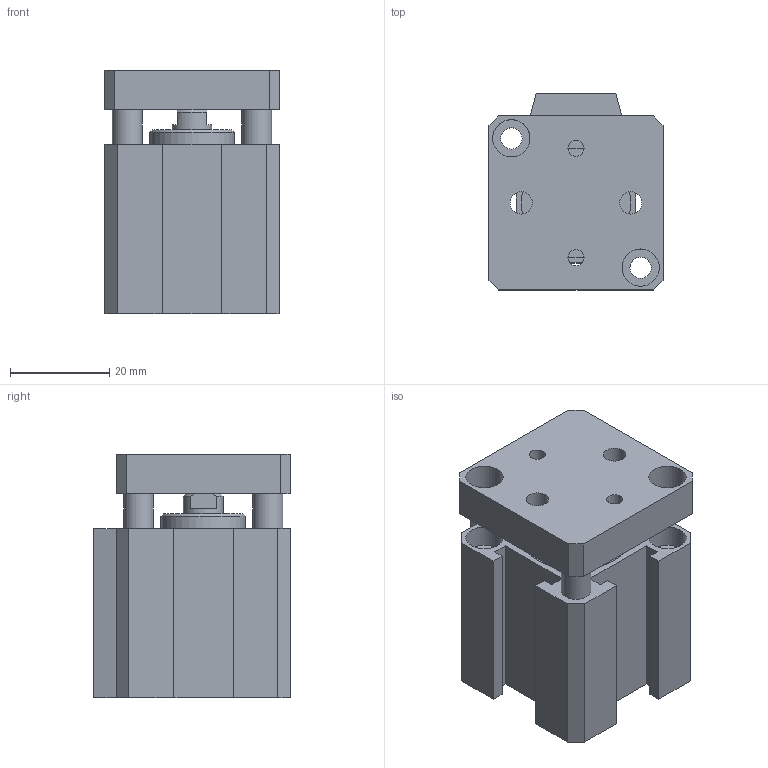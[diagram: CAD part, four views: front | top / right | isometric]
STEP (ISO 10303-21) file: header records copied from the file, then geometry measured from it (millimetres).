
FILE_DESCRIPTION(/* description */ ('PROFILO X COMPATTO Ø20'),/* implementation_level */ '2;1');
FILE_NAME(/* name */ 'I:\Area Tecnica\Disegni\VARIE-3D\Componenti\1500\Ø20\15##_20_####_#\1501_20_0005_AR.stp',/* time_stamp */ '2016-08-24T10:56:32+02:00',/* author */ ('Maniean1'),/* organization */ (''),/* preprocessor_version */ 'ST-DEVELOPER v15.2',/* originating_system */ 'Autodesk Inventor 2014',/* authorisation */ '');
FILE_SCHEMA (('AUTOMOTIVE_DESIGN { 1 0 10303 214 3 1 1 }'));
Length unit declared in the file: millimetre
Products named in the file (3): C_1501_20_0005_AR; S_1501_20_0005_AR; 1501_20_0005_AR
Bounding box: 35 x 39.5 x 49 mm (x, y, z)
Volume: 40484 mm3; surface area: 21139.8 mm2
Topology: 2 solids, 2 shells, 109 faces, 252 edges, 168 vertices
Faces by surface type: plane 73, cylinder 31, cone 5
Full cylindrical faces by diameter (mm): 3.242 x2, 4.3 x3, 4.5 x2, 6 x4, 7.5 x10, 8 x2, 8.566 x2, 17 x2, 20 x2, 22 x2
Entity records: 2991 total; most frequent: DIRECTION 508, CARTESIAN_POINT 500, ORIENTED_EDGE 428, EDGE_CURVE 214, EDGE_LOOP 184, AXIS2_PLACEMENT_3D 184, VERTEX_POINT 164, LINE 140
